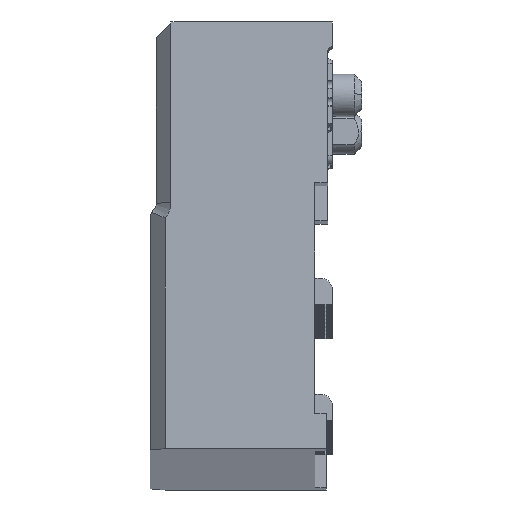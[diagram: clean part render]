
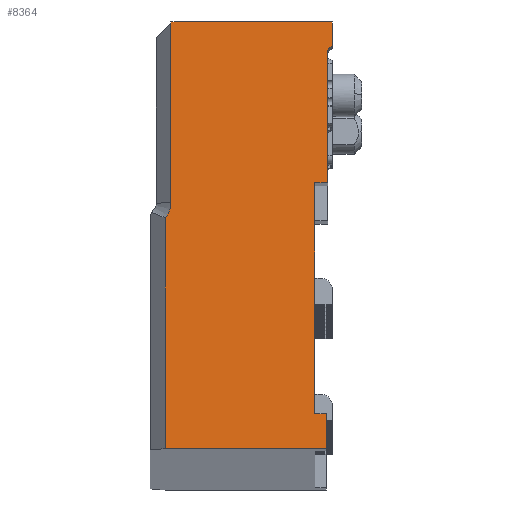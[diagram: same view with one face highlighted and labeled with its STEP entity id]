
A CAD part, left-side view. The second image highlights one B-rep face of the part: STEP entity #8364.
In plain terms, the highlighted planar face has unit normal (-0.997, 0, 0.077).
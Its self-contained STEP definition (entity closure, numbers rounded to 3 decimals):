
#945=DIRECTION('',(0.,-1.,0.));
#946=VECTOR('',#945,5.5);
#947=CARTESIAN_POINT('',(-2.432,6.7,-15.774));
#948=LINE('',#947,#946);
#961=DIRECTION('',(0.077,0.,0.997));
#962=VECTOR('',#961,1.2);
#963=CARTESIAN_POINT('',(-2.432,1.2,-15.774));
#964=LINE('',#963,#962);
#973=DIRECTION('',(-0.054,0.707,-0.705));
#974=VECTOR('',#973,0.226);
#975=CARTESIAN_POINT('',(-1.375,1.,-2.014));
#976=LINE('',#975,#974);
#977=DIRECTION('',(0.,1.,0.));
#978=VECTOR('',#977,0.44);
#979=CARTESIAN_POINT('',(-1.735,1.16,-6.701));
#980=LINE('',#979,#978);
#981=DIRECTION('',(-0.077,0.,-0.997));
#982=VECTOR('',#981,7.9);
#983=CARTESIAN_POINT('',(-1.735,1.6,-6.701));
#984=LINE('',#983,#982);
#985=CARTESIAN_POINT('',(-1.786,7.3,-7.366));
#986=DIRECTION('',(-0.997,0.,0.077));
#987=DIRECTION('',(-0.051,-0.75,-0.659));
#988=AXIS2_PLACEMENT_3D('',#985,#986,#987);
#990=DIRECTION('',(-0.077,0.,-0.997));
#991=VECTOR('',#990,6.167);
#992=CARTESIAN_POINT('',(-1.314,6.5,-1.217));
#993=LINE('',#992,#991);
#1034=DIRECTION('',(-0.077,0.,-0.997));
#1035=VECTOR('',#1034,7.904);
#1036=CARTESIAN_POINT('',(-1.827,6.7,
-7.893));
#1037=LINE('',#1036,#1035);
#1097=DIRECTION('',(0.,1.,0.));
#1098=VECTOR('',#1097,5.5);
#1099=CARTESIAN_POINT('',(-1.314,1.,
-1.217));
#1100=LINE('',#1099,#1098);
#1145=DIRECTION('',(0.077,0.,0.997));
#1146=VECTOR('',#1145,4.54);
#1147=CARTESIAN_POINT('',(-1.735,1.16,
-6.701));
#1148=LINE('',#1147,#1146);
#1183=DIRECTION('',(0.077,0.,0.997));
#1184=VECTOR('',#1183,0.8);
#1185=CARTESIAN_POINT('',(-1.375,1.,
-2.014));
#1186=LINE('',#1185,#1184);
#3395=DIRECTION('',(0.,1.,0.));
#3396=VECTOR('',#3395,0.4);
#3397=CARTESIAN_POINT('',(-2.34,1.2,
-14.577));
#3398=LINE('',#3397,#3396);
#5789=CARTESIAN_POINT('',(-1.314,6.5,
-1.217));
#5790=CARTESIAN_POINT('',(-1.786,6.5,
-7.366));
#5791=VERTEX_POINT('',#5789);
#5792=VERTEX_POINT('',#5790);
#5793=CARTESIAN_POINT('',(-1.314,1.,
-1.217));
#5794=VERTEX_POINT('',#5793);
#5795=CARTESIAN_POINT('',(-1.375,1.,
-2.014));
#5796=VERTEX_POINT('',#5795);
#5797=CARTESIAN_POINT('',(-1.387,1.16,
-2.174));
#5798=VERTEX_POINT('',#5797);
#5799=CARTESIAN_POINT('',(-1.735,1.16,
-6.701));
#5800=VERTEX_POINT('',#5799);
#5801=CARTESIAN_POINT('',(-1.735,1.6,
-6.701));
#5802=VERTEX_POINT('',#5801);
#5803=CARTESIAN_POINT('',(-2.34,1.6,
-14.577));
#5804=VERTEX_POINT('',#5803);
#5805=CARTESIAN_POINT('',(-2.34,1.2,
-14.577));
#5806=VERTEX_POINT('',#5805);
#5807=CARTESIAN_POINT('',(-2.432,1.2,
-15.774));
#5808=VERTEX_POINT('',#5807);
#5809=CARTESIAN_POINT('',(-2.432,6.7,
-15.774));
#5810=VERTEX_POINT('',#5809);
#5811=CARTESIAN_POINT('',(-1.827,6.7,
-7.893));
#5812=VERTEX_POINT('',#5811);
#8336=CARTESIAN_POINT('',(-1.873,3.85,
-8.495));
#8337=DIRECTION('',(0.997,0.,-0.077));
#8338=DIRECTION('',(-0.077,0.,-0.997));
#8339=AXIS2_PLACEMENT_3D('',#8336,#8337,#8338);
#8340=PLANE('',#8339);
#8342=ORIENTED_EDGE('',*,*,#8341,.F.);
#8344=ORIENTED_EDGE('',*,*,#8343,.F.);
#8346=ORIENTED_EDGE('',*,*,#8345,.F.);
#8348=ORIENTED_EDGE('',*,*,#8347,.T.);
#8350=ORIENTED_EDGE('',*,*,#8349,.F.);
#8352=ORIENTED_EDGE('',*,*,#8351,.T.);
#8353=ORIENTED_EDGE('',*,*,#7688,.T.);
#8355=ORIENTED_EDGE('',*,*,#8354,.F.);
#8356=ORIENTED_EDGE('',*,*,#8328,.F.);
#8357=ORIENTED_EDGE('',*,*,#8301,.F.);
#8359=ORIENTED_EDGE('',*,*,#8358,.F.);
#8361=ORIENTED_EDGE('',*,*,#8360,.T.);
#8362=EDGE_LOOP('',(#8342,#8344,#8346,#8348,#8350,#8352,#8353,#8355,#8356,#8357,
#8359,#8361));
#8363=FACE_OUTER_BOUND('',#8362,.F.);
#8364=ADVANCED_FACE('',(#8363),#8340,.F.);
#989=CIRCLE('',#988,0.8);
#7688=EDGE_CURVE('',#5802,#5804,#984,.T.);
#8301=EDGE_CURVE('',#5810,#5808,#948,.T.);
#8328=EDGE_CURVE('',#5808,#5806,#964,.T.);
#8341=EDGE_CURVE('',#5791,#5792,#993,.T.);
#8343=EDGE_CURVE('',#5794,#5791,#1100,.T.);
#8345=EDGE_CURVE('',#5796,#5794,#1186,.T.);
#8347=EDGE_CURVE('',#5796,#5798,#976,.T.);
#8349=EDGE_CURVE('',#5800,#5798,#1148,.T.);
#8351=EDGE_CURVE('',#5800,#5802,#980,.T.);
#8354=EDGE_CURVE('',#5806,#5804,#3398,.T.);
#8358=EDGE_CURVE('',#5812,#5810,#1037,.T.);
#8360=EDGE_CURVE('',#5812,#5792,#989,.T.);
